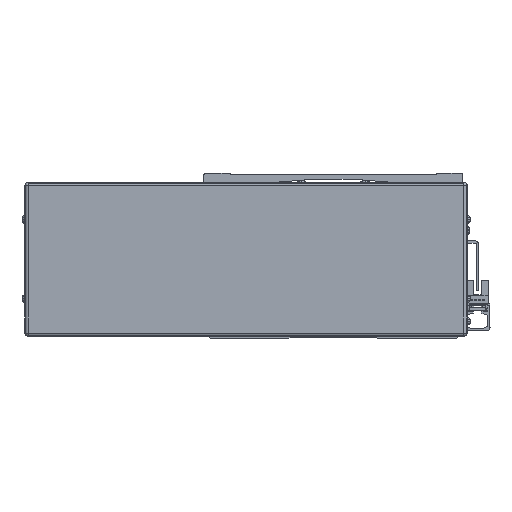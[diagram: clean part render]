
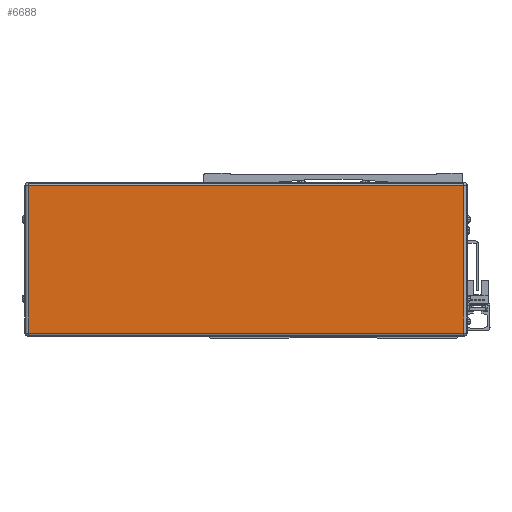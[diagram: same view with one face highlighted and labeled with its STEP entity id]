
A CAD part, front view. The second image highlights one B-rep face of the part: STEP entity #6688.
In plain terms, the highlighted planar face has unit normal (0, -1, 0).
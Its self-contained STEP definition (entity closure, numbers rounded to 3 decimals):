
#6688=ADVANCED_FACE('',(#13978),#13979,.F.);
#13978=FACE_OUTER_BOUND('',#23699,.T.);
#13979=PLANE('',#23700);
#23699=EDGE_LOOP('',(#43611,#43612,#43613,#43614));
#23700=AXIS2_PLACEMENT_3D('',#43615,#43616,#43617);
#43611=ORIENTED_EDGE('',*,*,#57028,.T.);
#43612=ORIENTED_EDGE('',*,*,#53023,.T.);
#43613=ORIENTED_EDGE('',*,*,#56782,.T.);
#43614=ORIENTED_EDGE('',*,*,#50963,.T.);
#43615=CARTESIAN_POINT('',(-655.,27.222,-2.));
#43616=DIRECTION('',(0.,1.0,0.));
#43617=DIRECTION('',(-1.0,0.,0.));
#50963=EDGE_CURVE('',#61532,#61530,#61533,.T.);
#53023=EDGE_CURVE('',#64872,#64870,#64873,.T.);
#56782=EDGE_CURVE('',#64870,#61532,#69982,.T.);
#57028=EDGE_CURVE('',#61530,#64872,#70274,.T.);
#61530=VERTEX_POINT('',#76309);
#61532=VERTEX_POINT('',#76311);
#61533=LINE('',#76312,#76313);
#64870=VERTEX_POINT('',#81243);
#64872=VERTEX_POINT('',#81245);
#64873=LINE('',#81246,#81247);
#69982=LINE('',#88957,#88958);
#70274=LINE('',#89421,#89422);
#76309=CARTESIAN_POINT('',(-517.9,27.222,44.5));
#76311=CARTESIAN_POINT('',(-517.9,27.222,-48.5));
#76312=CARTESIAN_POINT('',(-517.9,27.222,-2.));
#76313=VECTOR('',#93472,10.0);
#81243=CARTESIAN_POINT('',(-792.1,27.222,-48.5));
#81245=CARTESIAN_POINT('',(-792.1,27.222,44.5));
#81246=CARTESIAN_POINT('',(-792.1,27.222,-2.));
#81247=VECTOR('',#96013,10.0);
#88957=CARTESIAN_POINT('',(-655.,27.222,-48.5));
#88958=VECTOR('',#100226,10.0);
#89421=CARTESIAN_POINT('',(-655.,27.222,44.5));
#89422=VECTOR('',#100473,10.0);
#93472=DIRECTION('',(0.,0.,1.0));
#96013=DIRECTION('',(0.,0.,-1.0));
#100226=DIRECTION('',(1.0,0.,0.));
#100473=DIRECTION('',(-1.0,0.,0.));
